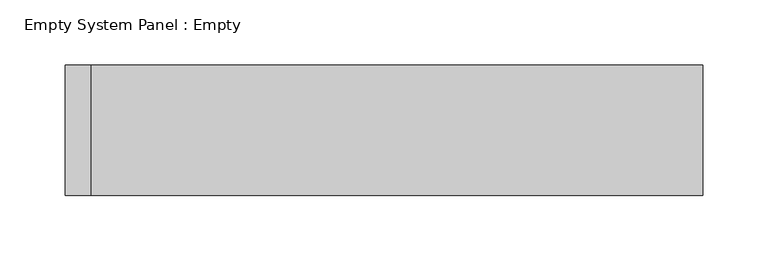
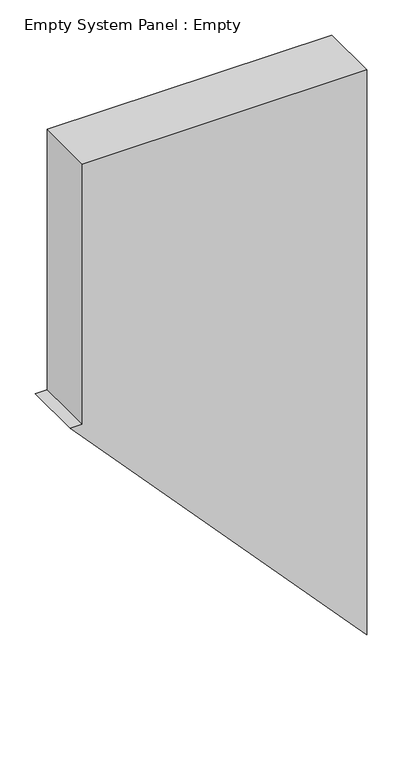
"""IFC4 building model written with IfcOpenShell, lengths in millimetres: plate geometry, Empty System Panel : Empty."""

import ifcopenshell
import ifcopenshell.guid

model = None  # the IFC model being written
_history = None  # IfcOwnerHistory: only IFC2X3 demands one
_inside = {}  # id of a spatial element -> (the spatial element, [elements in it])
_under = {}  # id of a project, library or spatial element -> (it, [spatial elements below it])
_declared = {}  # id of a project -> (the project, [libraries it declares])
_typed = {}  # id of a type object -> (the type object, [elements of that type])
_made_of = {}  # id of a material, layer set ... -> (it, [elements and type objects made of it])


def new_model(schema):
    """Start an empty IFC model of exactly this schema.

    Asked for "IFC4X3", IfcOpenShell would pick the latest addendum, in which some entities
    have other attributes; the version numbers below select the first issue.
    IFC2X3 requires an IfcOwnerHistory on every rooted entity: one is made here for all.
    """
    global model, _history
    if schema == "IFC4X3":
        model = ifcopenshell.file(schema_version=(4, 3, 0, 0))
    else:
        model = ifcopenshell.file(schema=schema)
    _inside.clear()
    _under.clear()
    _declared.clear()
    _typed.clear()
    _made_of.clear()
    _history = None
    if model.schema == "IFC2X3":
        org = make("IfcOrganization", Name="unknown")
        user = make(
            "IfcPersonAndOrganization",
            ThePerson=make("IfcPerson", FamilyName="unknown"),
            TheOrganization=org,
        )
        app = make(
            "IfcApplication",
            ApplicationDeveloper=org,
            Version="unknown",
            ApplicationFullName="unknown",
            ApplicationIdentifier="unknown",
        )
        _history = make(
            "IfcOwnerHistory",
            OwningUser=user,
            OwningApplication=app,
            ChangeAction="ADDED",
            CreationDate=0,
        )
    return model


def make(cls, **values):
    """One entity of the class cls with the attributes given. An attribute that is None is left unset."""
    return model.create_entity(
        cls, **{name: value for name, value in values.items() if value is not None}
    )


def rooted(cls, **values):
    """An entity with a GlobalId (a new one), such as an element, a storey or a relation."""
    return make(cls, GlobalId=ifcopenshell.guid.new(), OwnerHistory=_history, **values)


def si_unit(unit_type, name, prefix=None):
    """IfcSIUnit, for example si_unit("LENGTHUNIT", "METRE", prefix="MILLI")."""
    return make("IfcSIUnit", UnitType=unit_type, Prefix=prefix, Name=name)


def assignment(units):
    """IfcUnitAssignment: the units of a project."""
    return None if units is None else make("IfcUnitAssignment", Units=units)


def point(xyz):
    """IfcCartesianPoint."""
    return None if xyz is None else make("IfcCartesianPoint", Coordinates=xyz)


def direction(xyz):
    """IfcDirection."""
    return None if xyz is None else make("IfcDirection", DirectionRatios=xyz)


def frame(location, z_axis=None, x_axis=None):
    """IfcAxis2Placement3D, a coordinate frame: its origin and axes. An axis left out is left unset."""
    return make(
        "IfcAxis2Placement3D",
        Location=point(location),
        Axis=direction(z_axis),
        RefDirection=direction(x_axis),
    )


def origin():
    """The frame at (0, 0, 0) with its axes left unset."""
    return frame((0.0, 0.0, 0.0))


def place(relative_to, where):
    """IfcLocalPlacement: puts the frame where relative to a parent placement (None: the world)."""
    return make(
        "IfcLocalPlacement", PlacementRelTo=relative_to, RelativePlacement=where
    )


def context(
    kind, dimensions, precision=None, world=None, true_north=None, identifier=None
):
    """IfcGeometricRepresentationContext, for example the 3D "Model" context."""
    return make(
        "IfcGeometricRepresentationContext",
        ContextIdentifier=identifier,
        ContextType=kind,
        CoordinateSpaceDimension=dimensions,
        Precision=precision,
        WorldCoordinateSystem=world,
        TrueNorth=true_north,
    )


def project(units=None, contexts=None):
    """IfcProject with its units and contexts."""
    return rooted(
        "IfcProject",
        Name="project",
        RepresentationContexts=contexts,
        UnitsInContext=assignment(units),
    )


def spatial(cls, under=None, at=None, **own):
    """A site, building, storey or space (cls), placed at a placement, below another one or the project."""
    s = rooted(cls, ObjectPlacement=at, **own)
    if under is not None:
        _under.setdefault(under.id(), (under, []))[1].append(s)
    return s


def polyline(points):
    """IfcPolyline through the points."""
    return make("IfcPolyline", Points=[point(p) for p in points])


def outline(outer, holes=None, kind="AREA"):
    """IfcArbitraryClosedProfileDef: a profile drawn as a closed curve; with holes, ...WithVoids."""
    if holes is None:
        return make("IfcArbitraryClosedProfileDef", ProfileType=kind, OuterCurve=outer)
    return make(
        "IfcArbitraryProfileDefWithVoids",
        ProfileType=kind,
        OuterCurve=outer,
        InnerCurves=holes,
    )


def extrude(swept, where, along, depth):
    """IfcExtrudedAreaSolid: the profile swept, set in the frame where, extruded along a direction by depth."""
    return make(
        "IfcExtrudedAreaSolid",
        SweptArea=swept,
        Position=where,
        ExtrudedDirection=direction(along),
        Depth=depth,
    )


def shape(context_of_items, identifier, shape_type, items):
    """IfcShapeRepresentation: the items that make up one representation, for example the "Body"."""
    return make(
        "IfcShapeRepresentation",
        ContextOfItems=context_of_items,
        RepresentationIdentifier=identifier,
        RepresentationType=shape_type,
        Items=items,
    )


def source(mapping_origin, context_of_items, identifier, shape_type, items):
    """IfcRepresentationMap: a shape defined once, which mapped items show again and again."""
    return make(
        "IfcRepresentationMap",
        MappingOrigin=mapping_origin,
        MappedRepresentation=shape(context_of_items, identifier, shape_type, items),
    )


def transform(
    local_origin,
    x_axis=None,
    y_axis=None,
    z_axis=None,
    scale=None,
    scale2=None,
    scale3=None,
    uniform=True,
):
    """IfcCartesianTransformationOperator3D, or its non-uniform kind. x_axis, y_axis, z_axis: its Axis1, 2, 3."""
    if uniform:
        return make(
            "IfcCartesianTransformationOperator3D",
            Axis1=direction(x_axis),
            Axis2=direction(y_axis),
            LocalOrigin=point(local_origin),
            Scale=scale,
            Axis3=direction(z_axis),
        )
    return make(
        "IfcCartesianTransformationOperator3DnonUniform",
        Axis1=direction(x_axis),
        Axis2=direction(y_axis),
        LocalOrigin=point(local_origin),
        Scale=scale,
        Axis3=direction(z_axis),
        Scale2=scale2,
        Scale3=scale3,
    )


def mapped(mapping_source, mapping_target):
    """IfcMappedItem: shows the shape of a source again, moved by a transform."""
    return make(
        "IfcMappedItem", MappingSource=mapping_source, MappingTarget=mapping_target
    )


def made_of(thing, what):
    """Note that an element or type object is made of a material, layer set ...; save() writes the relation."""
    if what is not None:
        _made_of.setdefault(what.id(), (what, []))[1].append(thing)
    return thing


def element(
    cls,
    number,
    at=None,
    inside=None,
    cuts=None,
    type_object=None,
    material=None,
    context=None,
    identifier="Body",
    shape_type=None,
    held_by="IfcProductDefinitionShape",
    body=None,
    shapes=None,
    **own,
):
    """One element of the class cls, such as IfcWall. Its Tag is "e" and its number.

    at: its placement. inside: the storey or other place that contains it. cuts: it is an
    opening in that element (IfcRelVoidsElement). A single representation is given by context,
    identifier, shape_type and body (its items); several are given by shapes. held_by: the class
    of the entity that holds the representations. save() writes the other relations.
    """
    e = rooted(cls, Tag="e%d" % number, ObjectPlacement=at, **own)
    if body is not None:
        shapes = [shape(context, identifier, shape_type, body)]
    if shapes is not None:
        e.Representation = make(held_by, Representations=shapes)
    if inside is not None:
        _inside.setdefault(inside.id(), (inside, []))[1].append(e)
    if cuts is not None:
        rooted(
            "IfcRelVoidsElement", RelatingBuildingElement=cuts, RelatedOpeningElement=e
        )
    if type_object is not None:
        _typed.setdefault(type_object.id(), (type_object, []))[1].append(e)
    return made_of(e, material)


def aggregate(whole, parts):
    """IfcRelAggregates: a whole, such as a stair, and the parts it consists of."""
    return rooted("IfcRelAggregates", RelatingObject=whole, RelatedObjects=parts)


def save(model, path):
    """Write the relations noted so far, then the file.

    IfcRelAggregates (storeys below a building ...), IfcRelContainedInSpatialStructure (elements
    in a storey), IfcRelDefinesByType, IfcRelAssociatesMaterial and IfcRelDeclares: one each for
    every whole, place, type object, material and project.
    """
    for whole, parts in _under.values():
        aggregate(whole, parts)
    for where, things in _inside.values():
        rooted(
            "IfcRelContainedInSpatialStructure",
            RelatedElements=things,
            RelatingStructure=where,
        )
    for kind, things in _typed.values():
        rooted("IfcRelDefinesByType", RelatedObjects=things, RelatingType=kind)
    for what, things in _made_of.values():
        rooted("IfcRelAssociatesMaterial", RelatedObjects=things, RelatingMaterial=what)
    for by, libraries in _declared.values():
        rooted("IfcRelDeclares", RelatingContext=by, RelatedDefinitions=libraries)
    model.write(path)


def empty_system_panel_empty_ed15256e(model_context):
    return source(origin(), model_context, "Body", "SweptSolid", [
        extrude(outline(polyline([(529.729704, -244.1589868), (0.0, 244.1589868), (982.7156924, 244.1589868), (982.7156924, -224.1589868), (529.729704, -224.1589868), (529.729704, -244.1589868)])), frame((0.0, -50.0, 0.0), z_axis=(0.0, 1.0, 0.0), x_axis=(0.0, 0.0, 1.0)), (0.0, 0.0, 1.0), 100.0),
    ])


if __name__ == "__main__":
    model = new_model("IFC4")
    model_context = context("Model", 3, world=origin())
    ifc_project = project(units=[si_unit("LENGTHUNIT", "METRE", prefix="MILLI")], contexts=[model_context])
    site = spatial("IfcSite", under=ifc_project)
    building = spatial("IfcBuilding", under=site)
    placement = place(None, origin())
    empty_system_panel_empty_shape = empty_system_panel_empty_ed15256e(model_context)
    element("IfcPlate", 1, ObjectType="Empty System Panel : Empty", at=placement, inside=building, context=model_context, shape_type="MappedRepresentation", body=[
        mapped(empty_system_panel_empty_shape, transform((0.0, 0.0, 0.0), x_axis=(1.0, 0.0, 0.0), y_axis=(0.0, 1.0, 0.0), z_axis=(0.0, 0.0, 1.0))),
    ])
    save(model, "model.ifc")
